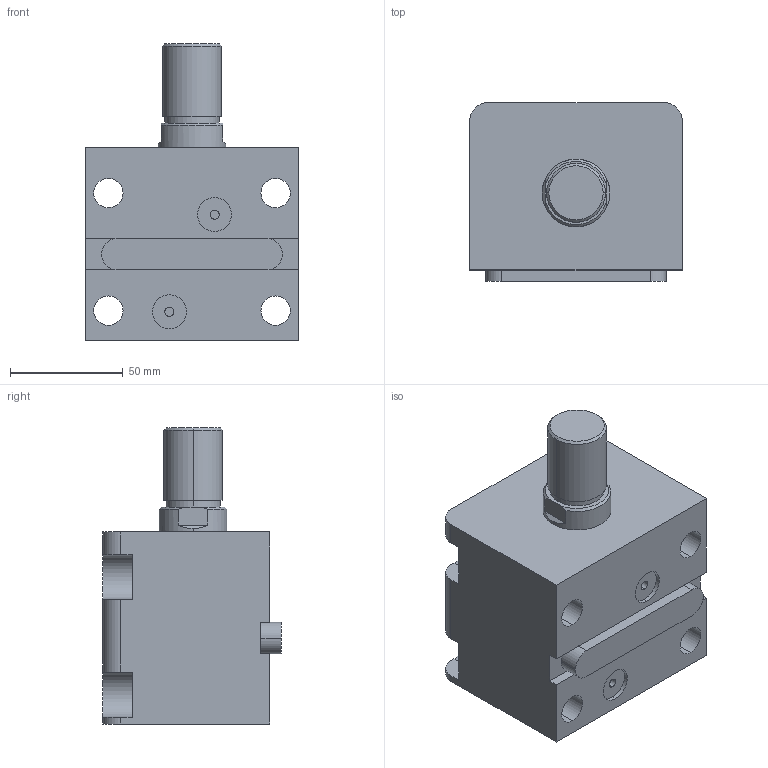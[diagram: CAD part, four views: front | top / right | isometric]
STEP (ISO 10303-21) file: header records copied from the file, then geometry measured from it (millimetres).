
FILE_DESCRIPTION (( 'STEP AP203' ), '1' );
FILE_NAME ('HTB-LAM50-25W.STEP', '2023-03-20T00:47:39', ( '微软用户' ), ( '微软中国' ), 'SwSTEP 2.0', 'SolidWorks 2012', '' );
FILE_SCHEMA (( 'CONFIG_CONTROL_DESIGN' ));
Length unit declared in the file: millimetre
Products named in the file (4): HTB-LAM50-25W; HTB-LWM50-瑩; HTB-LAM50-25W活塞杆; HTB-LAM50-25掛极
Assembly tree (3 placements, depth 2):
  HTB-LAM50-25W
    HTB-LAM50-25掛极
    HTB-LAM50-25W活塞杆
    HTB-LWM50-瑩
Bounding box: 94 x 79 x 131 mm (x, y, z)
Volume: 536804.3 mm3; surface area: 85879.3 mm2
Topology: 3 solids, 3 shells, 90 faces, 219 edges, 144 vertices
Faces by surface type: cylinder 41, plane 41, cone 4, torus 4
Entity records: 3107 total; most frequent: DIRECTION 497, CARTESIAN_POINT 487, ORIENTED_EDGE 438, EDGE_CURVE 219, AXIS2_PLACEMENT_3D 190, VERTEX_POINT 144, LINE 117, VECTOR 117
